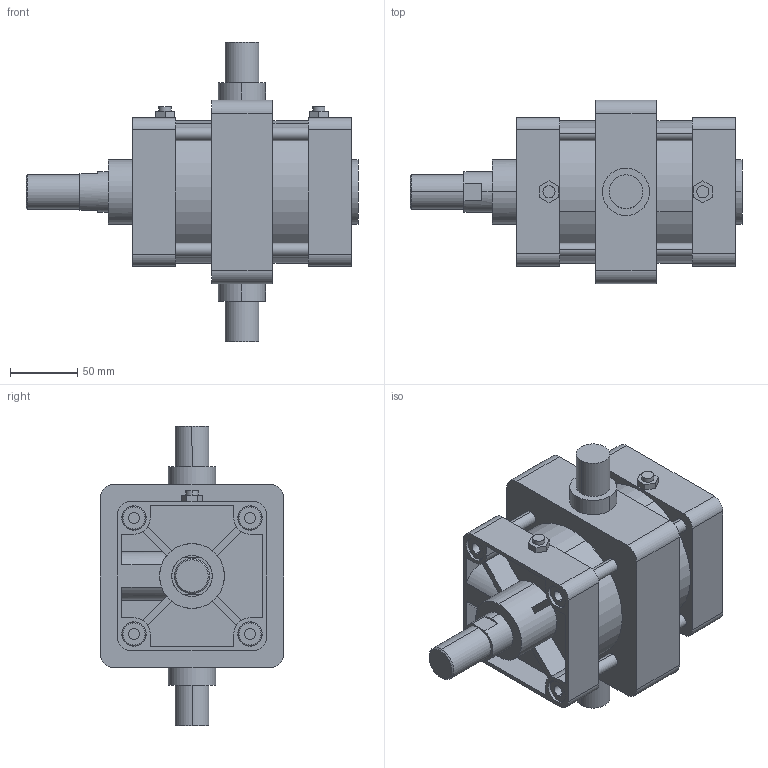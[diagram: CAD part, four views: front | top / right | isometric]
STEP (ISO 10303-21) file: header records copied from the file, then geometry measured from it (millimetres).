
FILE_DESCRIPTION (( 'STEP AP203' ), '1' );
FILE_NAME ('KG2-100-50-T.STEP', '2016-04-01T08:24:25', ( '' ), ( '' ), 'SwSTEP 2.0', 'SolidWorks 2014', '' );
FILE_SCHEMA (( 'CONFIG_CONTROL_DESIGN' ));
Length unit declared in the file: millimetre
Products named in the file (7): KG2-100-50-T; K-100-T; KG2-100-After; KGLH2-100-50
Assembly tree (16 placements, depth 2):
  KG2-100-50-T
    KG2-100-After
    KGLH2-100-50
    (unnamed)
    (unnamed)  x4
    (unnamed)  x8
    K-100-T
Bounding box: 246 x 136 x 222 mm (x, y, z)
Volume: 1966620.5 mm3; surface area: 276237.1 mm2
Topology: 16 solids, 16 shells, 337 faces, 795 edges, 510 vertices
Faces by surface type: plane 142, cylinder 137, torus 32, cone 26
Entity records: 8451 total; most frequent: DIRECTION 1359, CARTESIAN_POINT 1351, ORIENTED_EDGE 1210, EDGE_CURVE 605, AXIS2_PLACEMENT_3D 510, VERTEX_POINT 400, LINE 339, VECTOR 339
